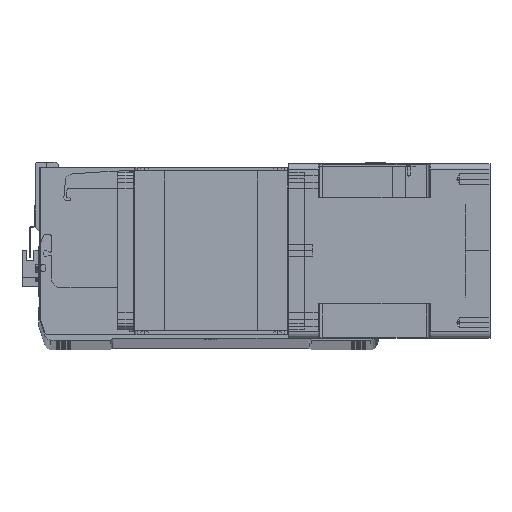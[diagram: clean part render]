
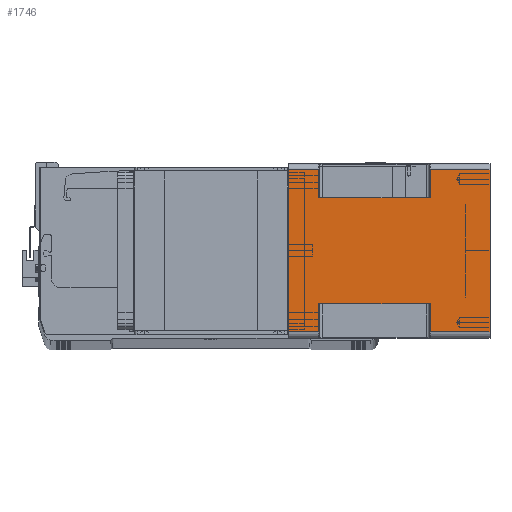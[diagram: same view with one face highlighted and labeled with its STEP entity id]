
A CAD part, top view. The second image highlights one B-rep face of the part: STEP entity #1746.
In plain terms, the highlighted planar face has unit normal (0, 0, 1) as drawn and (1, 0, 0) by its records, which use the part's own axes.
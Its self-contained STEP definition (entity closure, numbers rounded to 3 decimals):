
#301 = EDGE_CURVE ( 'NONE', #8305, #29597, #35890, .T. ) ;
#1746 = ADVANCED_FACE ( 'NONE', ( #31491 ), #24309, .T. ) ;
#1891 = CARTESIAN_POINT ( 'NONE',  ( 71., 66., -24.5 ) ) ;
#3624 = DIRECTION ( 'NONE',  ( 1., 0., 0. ) ) ;
#3658 = LINE ( 'NONE', #7795, #5068 ) ;
#4858 = CARTESIAN_POINT ( 'NONE',  ( 71., 43., -164. ) ) ;
#4959 = VERTEX_POINT ( 'NONE', #33613 ) ;
#5068 = VECTOR ( 'NONE', #22487, 1000. ) ;
#5501 = DIRECTION ( 'NONE',  ( 0., 1., 0. ) ) ;
#6230 = ORIENTED_EDGE ( 'NONE', *, *, #16499, .F. ) ;
#6317 = VERTEX_POINT ( 'NONE', #35234 ) ;
#6823 = AXIS2_PLACEMENT_3D ( 'NONE', #15265, #3624, #24571 ) ;
#6898 = VECTOR ( 'NONE', #7852, 1000. ) ;
#6941 = LINE ( 'NONE', #11257, #23743 ) ;
#7090 = LINE ( 'NONE', #8018, #37313 ) ;
#7795 = CARTESIAN_POINT ( 'NONE',  ( 71., 66., -164. ) ) ;
#7852 = DIRECTION ( 'NONE',  ( 0., 0., -1. ) ) ;
#8018 = CARTESIAN_POINT ( 'NONE',  ( 71., -66., -164. ) ) ;
#8305 = VERTEX_POINT ( 'NONE', #13471 ) ;
#8349 = CARTESIAN_POINT ( 'NONE',  ( 71., -66., 0. ) ) ;
#8779 = ORIENTED_EDGE ( 'NONE', *, *, #21848, .F. ) ;
#8852 = CARTESIAN_POINT ( 'NONE',  ( 71., -43., -164. ) ) ;
#8965 = ORIENTED_EDGE ( 'NONE', *, *, #12228, .F. ) ;
#9094 = VECTOR ( 'NONE', #14229, 1000. ) ;
#9156 = DIRECTION ( 'NONE',  ( 0., 1., 0. ) ) ;
#10345 = VERTEX_POINT ( 'NONE', #17629 ) ;
#10614 = LINE ( 'NONE', #23159, #22312 ) ;
#10966 = EDGE_CURVE ( 'NONE', #25113, #13175, #28715, .T. ) ;
#11097 = DIRECTION ( 'NONE',  ( 0., 0., 1. ) ) ;
#11257 = CARTESIAN_POINT ( 'NONE',  ( 71., 43., -115.5 ) ) ;
#12102 = CARTESIAN_POINT ( 'NONE',  ( 71., -43., -115.5 ) ) ;
#12228 = EDGE_CURVE ( 'NONE', #30698, #37435, #7090, .T. ) ;
#12797 = VECTOR ( 'NONE', #9156, 1000. ) ;
#13175 = VERTEX_POINT ( 'NONE', #1891 ) ;
#13197 = VECTOR ( 'NONE', #32706, 1000. ) ;
#13302 = CARTESIAN_POINT ( 'NONE',  ( 71., -66., 0. ) ) ;
#13339 = ORIENTED_EDGE ( 'NONE', *, *, #38126, .T. ) ;
#13471 = CARTESIAN_POINT ( 'NONE',  ( 71., -66., -164. ) ) ;
#14224 = VERTEX_POINT ( 'NONE', #15037 ) ;
#14229 = DIRECTION ( 'NONE',  ( 0., 0., 1. ) ) ;
#15037 = CARTESIAN_POINT ( 'NONE',  ( 71., 66., 0. ) ) ;
#15200 = VECTOR ( 'NONE', #22596, 1000. ) ;
#15265 = CARTESIAN_POINT ( 'NONE',  ( 71., -66., -164. ) ) ;
#15511 = VECTOR ( 'NONE', #16147, 1000. ) ;
#16147 = DIRECTION ( 'NONE',  ( 0., 0., 1. ) ) ;
#16499 = EDGE_CURVE ( 'NONE', #19456, #4959, #24441, .T. ) ;
#16665 = EDGE_CURVE ( 'NONE', #29597, #6317, #32348, .T. ) ;
#17629 = CARTESIAN_POINT ( 'NONE',  ( 71., -66., -115.5 ) ) ;
#18934 = LINE ( 'NONE', #13302, #15200 ) ;
#19456 = VERTEX_POINT ( 'NONE', #12102 ) ;
#20117 = CARTESIAN_POINT ( 'NONE',  ( 71., 43., -115.5 ) ) ;
#20928 = ORIENTED_EDGE ( 'NONE', *, *, #38331, .F. ) ;
#21124 = EDGE_LOOP ( 'NONE', ( #6230, #35030, #8779, #31088, #32039, #22989, #35180, #33242, #35990, #20928, #8965, #13339 ) ) ;
#21848 = EDGE_CURVE ( 'NONE', #8305, #10345, #25475, .T. ) ;
#22312 = VECTOR ( 'NONE', #29165, 1000. ) ;
#22487 = DIRECTION ( 'NONE',  ( 0., 0., 1. ) ) ;
#22596 = DIRECTION ( 'NONE',  ( 0., 1., 0. ) ) ;
#22989 = ORIENTED_EDGE ( 'NONE', *, *, #27297, .T. ) ;
#23159 = CARTESIAN_POINT ( 'NONE',  ( 71., -66., -115.5 ) ) ;
#23743 = VECTOR ( 'NONE', #29796, 1000. ) ;
#24309 = PLANE ( 'NONE',  #6823 ) ;
#24441 = LINE ( 'NONE', #8852, #13197 ) ;
#24571 = DIRECTION ( 'NONE',  ( 0., 1., 0. ) ) ;
#24603 = LINE ( 'NONE', #27194, #37123 ) ;
#25113 = VERTEX_POINT ( 'NONE', #27680 ) ;
#25475 = LINE ( 'NONE', #29379, #9094 ) ;
#27048 = CARTESIAN_POINT ( 'NONE',  ( 71., -66., -24.5 ) ) ;
#27194 = CARTESIAN_POINT ( 'NONE',  ( 71., -43., -24.5 ) ) ;
#27294 = EDGE_CURVE ( 'NONE', #19456, #10345, #10614, .T. ) ;
#27297 = EDGE_CURVE ( 'NONE', #6317, #29842, #6941, .T. ) ;
#27567 = CARTESIAN_POINT ( 'NONE',  ( 71., 66., -164. ) ) ;
#27680 = CARTESIAN_POINT ( 'NONE',  ( 71., 43., -24.5 ) ) ;
#27977 = VECTOR ( 'NONE', #5501, 1000. ) ;
#28715 = LINE ( 'NONE', #27048, #12797 ) ;
#29165 = DIRECTION ( 'NONE',  ( 0., -1., 0. ) ) ;
#29379 = CARTESIAN_POINT ( 'NONE',  ( 71., -66., -164. ) ) ;
#29597 = VERTEX_POINT ( 'NONE', #33982 ) ;
#29796 = DIRECTION ( 'NONE',  ( 0., -1., 0. ) ) ;
#29842 = VERTEX_POINT ( 'NONE', #20117 ) ;
#30060 = DIRECTION ( 'NONE',  ( 0., 1., 0. ) ) ;
#30182 = LINE ( 'NONE', #4858, #6898 ) ;
#30250 = EDGE_CURVE ( 'NONE', #13175, #14224, #3658, .T. ) ;
#30603 = CARTESIAN_POINT ( 'NONE',  ( 71., -66., -24.5 ) ) ;
#30698 = VERTEX_POINT ( 'NONE', #30603 ) ;
#31088 = ORIENTED_EDGE ( 'NONE', *, *, #301, .T. ) ;
#31491 = FACE_OUTER_BOUND ( 'NONE', #21124, .T. ) ;
#32039 = ORIENTED_EDGE ( 'NONE', *, *, #16665, .T. ) ;
#32348 = LINE ( 'NONE', #27567, #15511 ) ;
#32706 = DIRECTION ( 'NONE',  ( 0., 0., 1. ) ) ;
#33242 = ORIENTED_EDGE ( 'NONE', *, *, #10966, .T. ) ;
#33613 = CARTESIAN_POINT ( 'NONE',  ( 71., -43., -24.5 ) ) ;
#33982 = CARTESIAN_POINT ( 'NONE',  ( 71., 66., -164. ) ) ;
#35030 = ORIENTED_EDGE ( 'NONE', *, *, #27294, .T. ) ;
#35180 = ORIENTED_EDGE ( 'NONE', *, *, #37272, .F. ) ;
#35234 = CARTESIAN_POINT ( 'NONE',  ( 71., 66., -115.5 ) ) ;
#35688 = CARTESIAN_POINT ( 'NONE',  ( 71., -66., -164. ) ) ;
#35890 = LINE ( 'NONE', #35688, #27977 ) ;
#35990 = ORIENTED_EDGE ( 'NONE', *, *, #30250, .T. ) ;
#37123 = VECTOR ( 'NONE', #30060, 1000. ) ;
#37272 = EDGE_CURVE ( 'NONE', #25113, #29842, #30182, .T. ) ;
#37313 = VECTOR ( 'NONE', #11097, 1000. ) ;
#37435 = VERTEX_POINT ( 'NONE', #8349 ) ;
#38126 = EDGE_CURVE ( 'NONE', #30698, #4959, #24603, .T. ) ;
#38331 = EDGE_CURVE ( 'NONE', #37435, #14224, #18934, .T. ) ;
